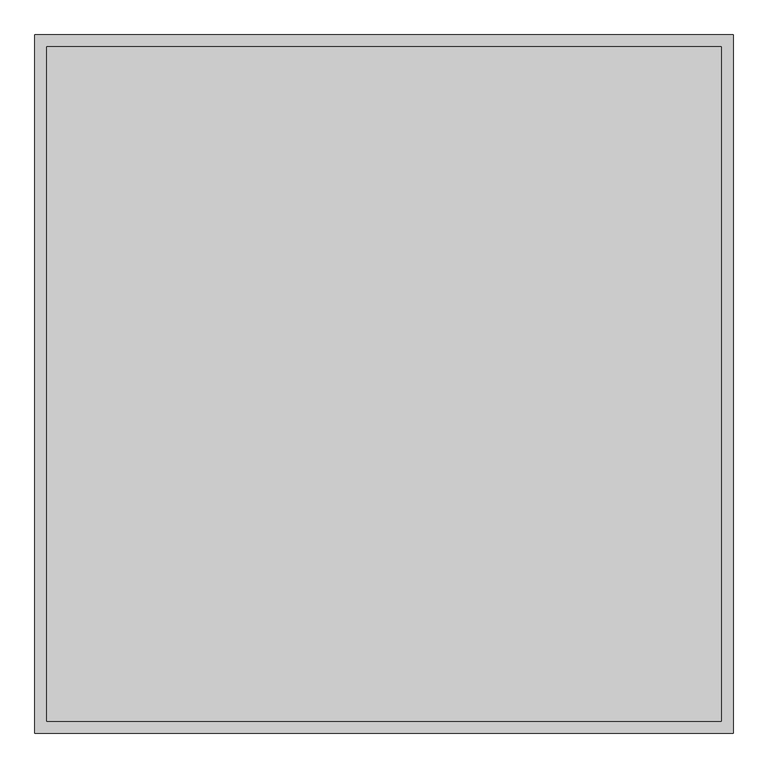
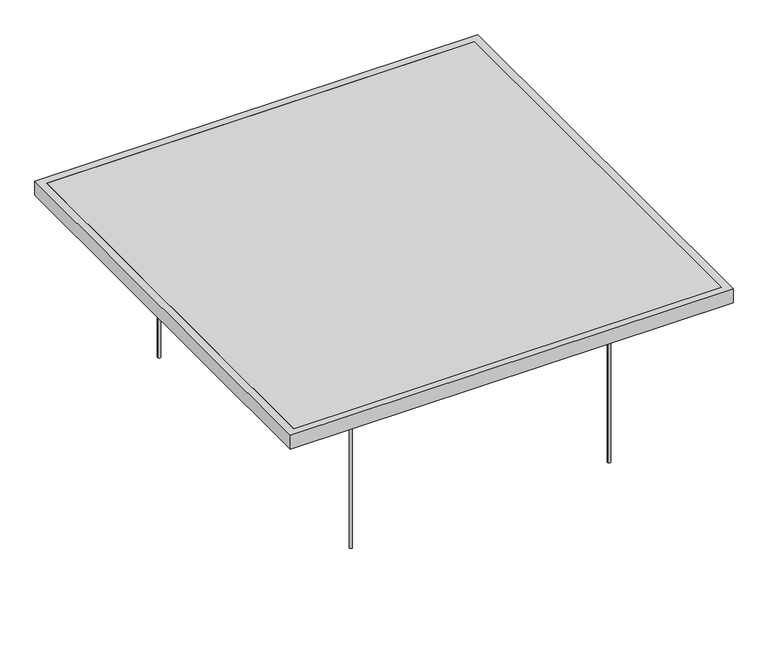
"""IFC4 building model written with IfcOpenShell, lengths in millimetres: proxy geometry, OWA Selecta Metal : Selecta Metal one."""

from ifc_helpers import new_model, si_unit, point, frame, frame_2d, origin, origin_with_axes, place, context, project, spatial, polyline, circle_curve, trimmed, segment, composite_curve, outline, extrude, source, transform, mapped, element, save


def specialty_equipment_ed930d67(model_context):
    return source(origin(), model_context, "Body", "SweptSolid", [
        extrude(outline(polyline([(-789.2735027, 450.0), (-786.3867513, 455.0), (-780.6132487, 455.0), (-777.7264973, 450.0), (-780.6132487, 445.0), (-786.3867513, 445.0), (-789.2735027, 450.0)]), holes=[composite_curve([segment(trimmed(circle_curve(frame_2d((-783.5, 450.0)), 3.85), [point((-787.35, 450.0))], [point((-779.65, 450.0))], True, "CARTESIAN"), True, "CONTINUOUS"), segment(trimmed(circle_curve(frame_2d((-783.5, 450.0)), 3.85), [point((-779.65, 450.0))], [point((-787.35, 450.0))], True, "CARTESIAN"), True, "CONTINUOUS")], self_intersect=False)]), frame((0.0, 0.0, 455.0), z_axis=(0.0, 0.0, 1.0), x_axis=(1.0, 0.0, 0.0)), (0.0, 0.0, 1.0), 5.0),
        extrude(outline(composite_curve([segment(trimmed(circle_curve(frame_2d((-783.5, 450.0)), 3.85), [point((-787.35, 450.0))], [point((-779.65, 450.0))], False, "CARTESIAN"), True, "CONTINUOUS"), segment(trimmed(circle_curve(frame_2d((-783.5, 450.0)), 3.85), [point((-779.65, 450.0))], [point((-787.35, 450.0))], False, "CARTESIAN"), True, "CONTINUOUS")], self_intersect=False)), origin_with_axes(), (0.0, 0.0, 1.0), 460.0),
        extrude(outline(polyline([(-77.7264973, 450.0), (-80.6132487, 445.0), (-86.3867513, 445.0), (-89.2735027, 450.0), (-86.3867513, 455.0), (-80.6132487, 455.0), (-77.7264973, 450.0)]), holes=[composite_curve([segment(trimmed(circle_curve(frame_2d((-83.5, 450.0)), 3.85), [point((-79.65, 450.0))], [point((-87.35, 450.0))], True, "CARTESIAN"), True, "CONTINUOUS"), segment(trimmed(circle_curve(frame_2d((-83.5, 450.0)), 3.85), [point((-87.35, 450.0))], [point((-79.65, 450.0))], True, "CARTESIAN"), True, "CONTINUOUS")], self_intersect=False)]), frame((0.0, 0.0, 455.0), z_axis=(0.0, 0.0, 1.0), x_axis=(1.0, 0.0, 0.0)), (0.0, 0.0, 1.0), 5.0),
        extrude(outline(composite_curve([segment(trimmed(circle_curve(frame_2d((-83.5, 450.0)), 3.85), [point((-79.65, 450.0))], [point((-87.35, 450.0))], False, "CARTESIAN"), True, "CONTINUOUS"), segment(trimmed(circle_curve(frame_2d((-83.5, 450.0)), 3.85), [point((-87.35, 450.0))], [point((-79.65, 450.0))], False, "CARTESIAN"), True, "CONTINUOUS")], self_intersect=False)), origin_with_axes(), (0.0, 0.0, 1.0), 460.0),
        extrude(outline(polyline([(-77.7264973, -450.0), (-80.6132487, -455.0), (-86.3867513, -455.0), (-89.2735027, -450.0), (-86.3867513, -445.0), (-80.6132487, -445.0), (-77.7264973, -450.0)]), holes=[composite_curve([segment(trimmed(circle_curve(frame_2d((-83.5, -450.0)), 3.85), [point((-79.65, -450.0))], [point((-87.35, -450.0))], True, "CARTESIAN"), True, "CONTINUOUS"), segment(trimmed(circle_curve(frame_2d((-83.5, -450.0)), 3.85), [point((-87.35, -450.0))], [point((-79.65, -450.0))], True, "CARTESIAN"), True, "CONTINUOUS")], self_intersect=False)]), frame((0.0, 0.0, 455.0), z_axis=(0.0, 0.0, 1.0), x_axis=(1.0, 0.0, 0.0)), (0.0, 0.0, 1.0), 5.0),
        extrude(outline(composite_curve([segment(trimmed(circle_curve(frame_2d((-83.5, -450.0)), 3.85), [point((-79.65, -450.0))], [point((-87.35, -450.0))], False, "CARTESIAN"), True, "CONTINUOUS"), segment(trimmed(circle_curve(frame_2d((-83.5, -450.0)), 3.85), [point((-87.35, -450.0))], [point((-79.65, -450.0))], False, "CARTESIAN"), True, "CONTINUOUS")], self_intersect=False)), origin_with_axes(), (0.0, 0.0, 1.0), 460.0),
        extrude(outline(polyline([(-789.2735027, -450.0), (-786.3867513, -445.0), (-780.6132487, -445.0), (-777.7264973, -450.0), (-780.6132487, -455.0), (-786.3867513, -455.0), (-789.2735027, -450.0)]), holes=[composite_curve([segment(trimmed(circle_curve(frame_2d((-783.5, -450.0)), 3.85), [point((-787.35, -450.0))], [point((-779.65, -450.0))], True, "CARTESIAN"), True, "CONTINUOUS"), segment(trimmed(circle_curve(frame_2d((-783.5, -450.0)), 3.85), [point((-779.65, -450.0))], [point((-787.35, -450.0))], True, "CARTESIAN"), True, "CONTINUOUS")], self_intersect=False)]), frame((0.0, 0.0, 455.0), z_axis=(0.0, 0.0, 1.0), x_axis=(1.0, 0.0, 0.0)), (0.0, 0.0, 1.0), 5.0),
        extrude(outline(composite_curve([segment(trimmed(circle_curve(frame_2d((-783.5, -450.0)), 3.85), [point((-787.35, -450.0))], [point((-779.65, -450.0))], False, "CARTESIAN"), True, "CONTINUOUS"), segment(trimmed(circle_curve(frame_2d((-783.5, -450.0)), 3.85), [point((-779.65, -450.0))], [point((-787.35, -450.0))], False, "CARTESIAN"), True, "CONTINUOUS")], self_intersect=False)), origin_with_axes(), (0.0, 0.0, 1.0), 460.0),
        extrude(outline(polyline([(-763.5, 580.0), (-763.5, -580.0), (-803.5, -580.0), (-803.5, 580.0), (-763.5, 580.0)])), frame((0.0, 0.0, 460.0), z_axis=(0.0, 0.0, 1.0), x_axis=(1.0, 0.0, 0.0)), (0.0, 0.0, 1.0), 20.0),
        extrude(outline(polyline([(-103.5, 580.0), (-63.5, 580.0), (-63.5, -580.0), (-103.5, -580.0), (-103.5, 580.0)])), frame((0.0, 0.0, 460.0), z_axis=(0.0, 0.0, 1.0), x_axis=(1.0, 0.0, 0.0)), (0.0, 0.0, 1.0), 20.0),
        extrude(outline(polyline([(166.5, 600.0), (166.5, -600.0), (-1033.5, -600.0), (-1033.5, 600.0), (166.5, 600.0)]), holes=[polyline([(-1013.5, -580.0), (146.5, -580.0), (146.5, 580.0), (-1013.5, 580.0), (-1013.5, -580.0)])]), frame((0.0, 0.0, 460.0), z_axis=(0.0, 0.0, 1.0), x_axis=(1.0, 0.0, 0.0)), (0.0, 0.0, 1.0), 40.0),
        extrude(outline(polyline([(146.5, 580.0), (146.5, -580.0), (-1013.5, -580.0), (-1013.5, 580.0), (146.5, 580.0)])), frame((0.0, 0.0, 490.0), z_axis=(0.0, 0.0, 1.0), x_axis=(1.0, 0.0, 0.0)), (0.0, 0.0, 1.0), 10.0),
    ])


if __name__ == "__main__":
    model = new_model("IFC4")
    model_context = context("Model", 3, world=origin())
    ifc_project = project(units=[si_unit("LENGTHUNIT", "METRE", prefix="MILLI")], contexts=[model_context])
    site = spatial("IfcSite", under=ifc_project)
    building = spatial("IfcBuilding", under=site)
    placement = place(None, origin())
    specialty_equipment_shape = specialty_equipment_ed930d67(model_context)
    element("IfcBuildingElementProxy", 1, Name="OWA Selecta Metal : Selecta Metal one", ObjectType="OWA Selecta Metal : Selecta Metal one", at=placement, inside=building, context=model_context, shape_type="MappedRepresentation", body=[
        mapped(specialty_equipment_shape, transform((0.0, 0.0, 0.0), x_axis=(1.0, 0.0, 0.0), y_axis=(0.0, 1.0, 0.0), z_axis=(0.0, 0.0, 1.0))),
    ])
    save(model, "model.ifc")
